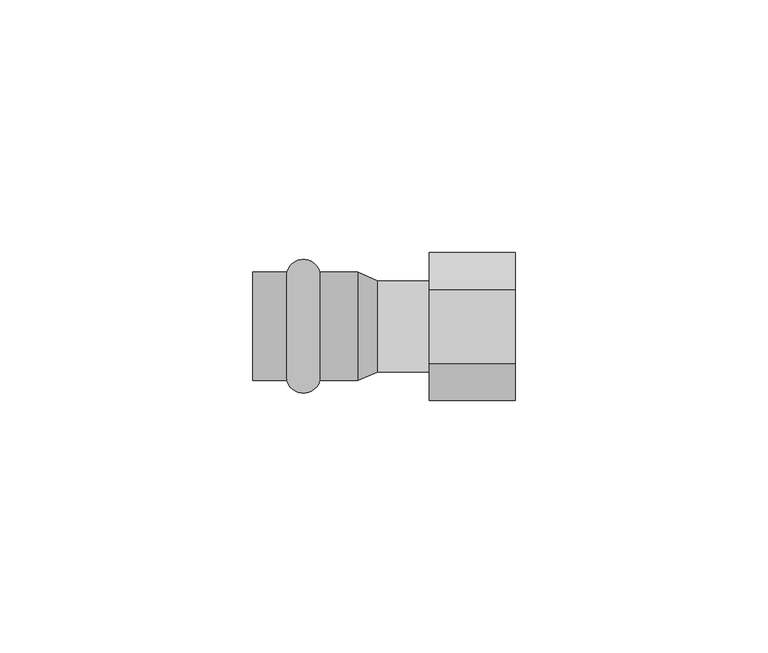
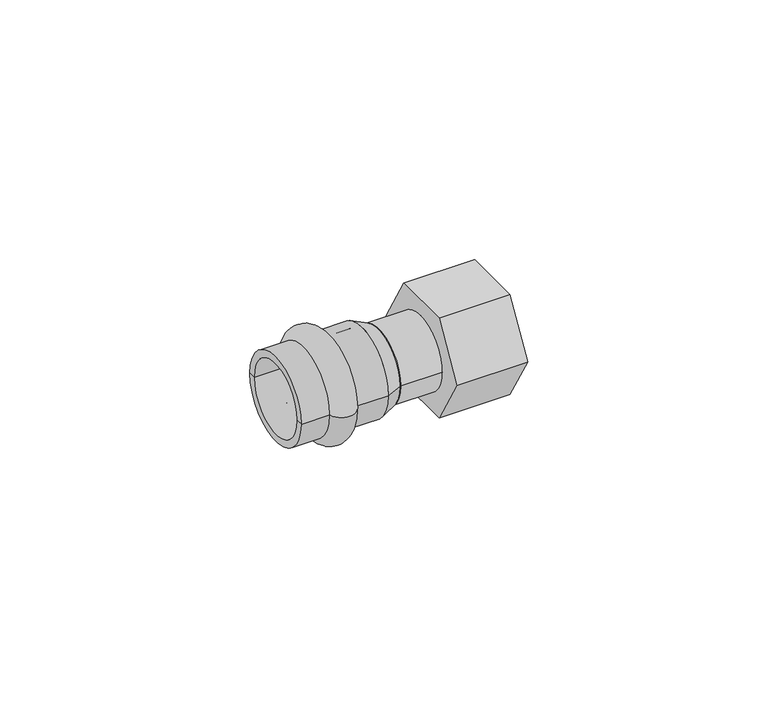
"""IFC4 building model written with IfcOpenShell, lengths in millimetres: pipe fitting geometry, VALTEC_VTi.902.I_Соединитель прямой с переходом на внутреннюю резьбу_Нержавеющая сталь : VTi.902.I."""

import ifcopenshell
import ifcopenshell.guid

model = None  # the IFC model being written
_history = None  # IfcOwnerHistory: only IFC2X3 demands one
_inside = {}  # id of a spatial element -> (the spatial element, [elements in it])
_under = {}  # id of a project, library or spatial element -> (it, [spatial elements below it])
_declared = {}  # id of a project -> (the project, [libraries it declares])
_typed = {}  # id of a type object -> (the type object, [elements of that type])
_made_of = {}  # id of a material, layer set ... -> (it, [elements and type objects made of it])


def new_model(schema):
    """Start an empty IFC model of exactly this schema.

    Asked for "IFC4X3", IfcOpenShell would pick the latest addendum, in which some entities
    have other attributes; the version numbers below select the first issue.
    IFC2X3 requires an IfcOwnerHistory on every rooted entity: one is made here for all.
    """
    global model, _history
    if schema == "IFC4X3":
        model = ifcopenshell.file(schema_version=(4, 3, 0, 0))
    else:
        model = ifcopenshell.file(schema=schema)
    _inside.clear()
    _under.clear()
    _declared.clear()
    _typed.clear()
    _made_of.clear()
    _history = None
    if model.schema == "IFC2X3":
        org = make("IfcOrganization", Name="unknown")
        user = make(
            "IfcPersonAndOrganization",
            ThePerson=make("IfcPerson", FamilyName="unknown"),
            TheOrganization=org,
        )
        app = make(
            "IfcApplication",
            ApplicationDeveloper=org,
            Version="unknown",
            ApplicationFullName="unknown",
            ApplicationIdentifier="unknown",
        )
        _history = make(
            "IfcOwnerHistory",
            OwningUser=user,
            OwningApplication=app,
            ChangeAction="ADDED",
            CreationDate=0,
        )
    return model


def make(cls, **values):
    """One entity of the class cls with the attributes given. An attribute that is None is left unset."""
    return model.create_entity(
        cls, **{name: value for name, value in values.items() if value is not None}
    )


def rooted(cls, **values):
    """An entity with a GlobalId (a new one), such as an element, a storey or a relation."""
    return make(cls, GlobalId=ifcopenshell.guid.new(), OwnerHistory=_history, **values)


def si_unit(unit_type, name, prefix=None):
    """IfcSIUnit, for example si_unit("LENGTHUNIT", "METRE", prefix="MILLI")."""
    return make("IfcSIUnit", UnitType=unit_type, Prefix=prefix, Name=name)


def assignment(units):
    """IfcUnitAssignment: the units of a project."""
    return None if units is None else make("IfcUnitAssignment", Units=units)


def point(xyz):
    """IfcCartesianPoint."""
    return None if xyz is None else make("IfcCartesianPoint", Coordinates=xyz)


def direction(xyz):
    """IfcDirection."""
    return None if xyz is None else make("IfcDirection", DirectionRatios=xyz)


def frame(location, z_axis=None, x_axis=None):
    """IfcAxis2Placement3D, a coordinate frame: its origin and axes. An axis left out is left unset."""
    return make(
        "IfcAxis2Placement3D",
        Location=point(location),
        Axis=direction(z_axis),
        RefDirection=direction(x_axis),
    )


def frame_2d(location, x_axis=None):
    """IfcAxis2Placement2D, a coordinate frame in the plane: its origin and x axis."""
    return make(
        "IfcAxis2Placement2D", Location=point(location), RefDirection=direction(x_axis)
    )


def origin():
    """The frame at (0, 0, 0) with its axes left unset."""
    return frame((0.0, 0.0, 0.0))


def origin_2d():
    """The frame at (0, 0) in the plane with its x axis left unset."""
    return frame_2d((0.0, 0.0))


def place(relative_to, where):
    """IfcLocalPlacement: puts the frame where relative to a parent placement (None: the world)."""
    return make(
        "IfcLocalPlacement", PlacementRelTo=relative_to, RelativePlacement=where
    )


def context(
    kind, dimensions, precision=None, world=None, true_north=None, identifier=None
):
    """IfcGeometricRepresentationContext, for example the 3D "Model" context."""
    return make(
        "IfcGeometricRepresentationContext",
        ContextIdentifier=identifier,
        ContextType=kind,
        CoordinateSpaceDimension=dimensions,
        Precision=precision,
        WorldCoordinateSystem=world,
        TrueNorth=true_north,
    )


def project(units=None, contexts=None):
    """IfcProject with its units and contexts."""
    return rooted(
        "IfcProject",
        Name="project",
        RepresentationContexts=contexts,
        UnitsInContext=assignment(units),
    )


def spatial(cls, under=None, at=None, **own):
    """A site, building, storey or space (cls), placed at a placement, below another one or the project."""
    s = rooted(cls, ObjectPlacement=at, **own)
    if under is not None:
        _under.setdefault(under.id(), (under, []))[1].append(s)
    return s


def polyline(points):
    """IfcPolyline through the points."""
    return make("IfcPolyline", Points=[point(p) for p in points])


def circle_curve(where, radius):
    """IfcCircle in the frame where."""
    return make("IfcCircle", Position=where, Radius=radius)


def ellipse_curve(where, semi_axis1, semi_axis2):
    """IfcEllipse in the frame where."""
    return make(
        "IfcEllipse", Position=where, SemiAxis1=semi_axis1, SemiAxis2=semi_axis2
    )


def trimmed(basis, trim1, trim2, sense, master):
    """IfcTrimmedCurve: the piece of a basis curve between two trims."""
    return make(
        "IfcTrimmedCurve",
        BasisCurve=basis,
        Trim1=trim1,
        Trim2=trim2,
        SenseAgreement=sense,
        MasterRepresentation=master,
    )


def segment(curve, same_sense, transition):
    """IfcCompositeCurveSegment."""
    return make(
        "IfcCompositeCurveSegment",
        Transition=transition,
        SameSense=same_sense,
        ParentCurve=curve,
    )


def composite_curve(segments, self_intersect=None):
    """IfcCompositeCurve: segments joined end to end."""
    return make("IfcCompositeCurve", Segments=segments, SelfIntersect=self_intersect)


def outline(outer, holes=None, kind="AREA"):
    """IfcArbitraryClosedProfileDef: a profile drawn as a closed curve; with holes, ...WithVoids."""
    if holes is None:
        return make("IfcArbitraryClosedProfileDef", ProfileType=kind, OuterCurve=outer)
    return make(
        "IfcArbitraryProfileDefWithVoids",
        ProfileType=kind,
        OuterCurve=outer,
        InnerCurves=holes,
    )


def extrude(swept, where, along, depth):
    """IfcExtrudedAreaSolid: the profile swept, set in the frame where, extruded along a direction by depth."""
    return make(
        "IfcExtrudedAreaSolid",
        SweptArea=swept,
        Position=where,
        ExtrudedDirection=direction(along),
        Depth=depth,
    )


def shape(context_of_items, identifier, shape_type, items):
    """IfcShapeRepresentation: the items that make up one representation, for example the "Body"."""
    return make(
        "IfcShapeRepresentation",
        ContextOfItems=context_of_items,
        RepresentationIdentifier=identifier,
        RepresentationType=shape_type,
        Items=items,
    )


def source(mapping_origin, context_of_items, identifier, shape_type, items):
    """IfcRepresentationMap: a shape defined once, which mapped items show again and again."""
    return make(
        "IfcRepresentationMap",
        MappingOrigin=mapping_origin,
        MappedRepresentation=shape(context_of_items, identifier, shape_type, items),
    )


def transform(
    local_origin,
    x_axis=None,
    y_axis=None,
    z_axis=None,
    scale=None,
    scale2=None,
    scale3=None,
    uniform=True,
):
    """IfcCartesianTransformationOperator3D, or its non-uniform kind. x_axis, y_axis, z_axis: its Axis1, 2, 3."""
    if uniform:
        return make(
            "IfcCartesianTransformationOperator3D",
            Axis1=direction(x_axis),
            Axis2=direction(y_axis),
            LocalOrigin=point(local_origin),
            Scale=scale,
            Axis3=direction(z_axis),
        )
    return make(
        "IfcCartesianTransformationOperator3DnonUniform",
        Axis1=direction(x_axis),
        Axis2=direction(y_axis),
        LocalOrigin=point(local_origin),
        Scale=scale,
        Axis3=direction(z_axis),
        Scale2=scale2,
        Scale3=scale3,
    )


def mapped(mapping_source, mapping_target):
    """IfcMappedItem: shows the shape of a source again, moved by a transform."""
    return make(
        "IfcMappedItem", MappingSource=mapping_source, MappingTarget=mapping_target
    )


def made_of(thing, what):
    """Note that an element or type object is made of a material, layer set ...; save() writes the relation."""
    if what is not None:
        _made_of.setdefault(what.id(), (what, []))[1].append(thing)
    return thing


def element(
    cls,
    number,
    at=None,
    inside=None,
    cuts=None,
    type_object=None,
    material=None,
    context=None,
    identifier="Body",
    shape_type=None,
    held_by="IfcProductDefinitionShape",
    body=None,
    shapes=None,
    **own,
):
    """One element of the class cls, such as IfcWall. Its Tag is "e" and its number.

    at: its placement. inside: the storey or other place that contains it. cuts: it is an
    opening in that element (IfcRelVoidsElement). A single representation is given by context,
    identifier, shape_type and body (its items); several are given by shapes. held_by: the class
    of the entity that holds the representations. save() writes the other relations.
    """
    e = rooted(cls, Tag="e%d" % number, ObjectPlacement=at, **own)
    if body is not None:
        shapes = [shape(context, identifier, shape_type, body)]
    if shapes is not None:
        e.Representation = make(held_by, Representations=shapes)
    if inside is not None:
        _inside.setdefault(inside.id(), (inside, []))[1].append(e)
    if cuts is not None:
        rooted(
            "IfcRelVoidsElement", RelatingBuildingElement=cuts, RelatedOpeningElement=e
        )
    if type_object is not None:
        _typed.setdefault(type_object.id(), (type_object, []))[1].append(e)
    return made_of(e, material)


def aggregate(whole, parts):
    """IfcRelAggregates: a whole, such as a stair, and the parts it consists of."""
    return rooted("IfcRelAggregates", RelatingObject=whole, RelatedObjects=parts)


def save(model, path):
    """Write the relations noted so far, then the file.

    IfcRelAggregates (storeys below a building ...), IfcRelContainedInSpatialStructure (elements
    in a storey), IfcRelDefinesByType, IfcRelAssociatesMaterial and IfcRelDeclares: one each for
    every whole, place, type object, material and project.
    """
    for whole, parts in _under.values():
        aggregate(whole, parts)
    for where, things in _inside.values():
        rooted(
            "IfcRelContainedInSpatialStructure",
            RelatedElements=things,
            RelatingStructure=where,
        )
    for kind, things in _typed.values():
        rooted("IfcRelDefinesByType", RelatedObjects=things, RelatingType=kind)
    for what, things in _made_of.values():
        rooted("IfcRelAssociatesMaterial", RelatedObjects=things, RelatingMaterial=what)
    for by, libraries in _declared.values():
        rooted("IfcRelDeclares", RelatingContext=by, RelatedDefinitions=libraries)
    model.write(path)


def plane_surface(at):
    """IfcPlane: the flat surface through the origin of the frame at, square to its z axis."""
    return make("IfcPlane", Position=at)


def cylinder_surface(at, radius):
    """IfcCylindricalSurface: all points at the distance radius from the z axis of the frame at."""
    return make("IfcCylindricalSurface", Position=at, Radius=radius)


def revolved_surface(curve, axis_point, axis_direction):
    """IfcSurfaceOfRevolution: the curve turned about the line through axis_point along axis_direction."""
    return make(
        "IfcSurfaceOfRevolution",
        SweptCurve=make("IfcArbitraryOpenProfileDef", ProfileType="CURVE", Curve=curve),
        AxisPosition=make("IfcAxis1Placement", Location=point(axis_point), Axis=direction(axis_direction)),
    )


def advanced_brep(points, edges, surfaces, faces):
    """IfcAdvancedBrep: a solid bounded by faces that lie on surfaces and meet in shared edges.

    An edge is (start, end): straight between two places in points (the first is 0);
    or (start, end, curve); or (start, end, curve, False) where it runs against its curve.
    A face is (place in surfaces, loops), or (place, loops, False) where it looks against
    its surface's normal. A loop lists edges by number (the first is 1), with a minus sign
    where the edge is run from its end to its start. The first loop is the outer one.
    """
    corners = [point(p) for p in points]
    vertices = [make("IfcVertexPoint", VertexGeometry=c) for c in corners]
    made = []
    for start, end, *more in edges:
        made.append(
            make(
                "IfcEdgeCurve",
                EdgeStart=vertices[start],
                EdgeEnd=vertices[end],
                EdgeGeometry=more[0] if more else make("IfcPolyline", Points=[corners[start], corners[end]]),
                SameSense=more[1] if len(more) > 1 else True,
            )
        )
    hull = []
    for where, loops, *sense in faces:
        bounds = []
        for j, loop in enumerate(loops):
            ring = [make("IfcOrientedEdge", EdgeElement=made[abs(k) - 1], Orientation=k > 0) for k in loop]
            bounds.append(
                make(
                    "IfcFaceOuterBound" if j == 0 else "IfcFaceBound",
                    Bound=make("IfcEdgeLoop", EdgeList=ring),
                    Orientation=True,
                )
            )
        hull.append(make("IfcAdvancedFace", Bounds=bounds, FaceSurface=surfaces[where], SameSense=sense[0] if sense else True))
    return make("IfcAdvancedBrep", Outer=make("IfcClosedShell", CfsFaces=hull))


def pipe_fitting_c54bd67b(model_context):
    return source(origin(), model_context, "Body", "SolidModel", [
        advanced_brep(
        [(-36.7287193, -10.75, 0.0), (-36.7287193, 10.75, 0.0), (-30.1712807, 10.75, 0.0), (-30.1712807, -10.75, 0.0), (-43.5, -10.75, 0.0), (-43.5, 10.75, 0.0), (-43.5, -9.0, 0.0), (-43.5, 9.0, 0.0), (-22.7, -9.0, 0.0), (-22.7, 9.0, 0.0), (-22.7, -10.75, 0.0), (-22.7, 10.75, 0.0)],
        [
            (0, 1, circle_curve(frame((-36.7287193, 0.0, 0.0), z_axis=(1.0, 0.0, 0.0), x_axis=(0.0, 1.0, 0.0)), 10.75)),
            (1, 2, circle_curve(frame((-33.45, 9.85, 0.0), z_axis=(0.0, 0.0, -1.0), x_axis=(1.0, 0.0, 0.0)), 3.4)),
            (2, 3, circle_curve(frame((-30.1712807, 0.0, 0.0), z_axis=(-1.0, 0.0, 0.0), x_axis=(0.0, 1.0, 0.0)), 10.75)),
            (3, 0, circle_curve(frame((-33.45, -9.85, 0.0), z_axis=(0.0, 0.0, -1.0), x_axis=(1.0, 0.0, 0.0)), 3.4)),
            (1, 0, circle_curve(frame((-36.7287193, 0.0, 0.0), z_axis=(1.0, 0.0, 0.0), x_axis=(0.0, 1.0, 0.0)), 10.75)),
            (3, 2, circle_curve(frame((-30.1712807, 0.0, 0.0), z_axis=(-1.0, 0.0, 0.0), x_axis=(0.0, 1.0, 0.0)), 10.75)),
            (4, 5, circle_curve(frame((-43.5, 0.0, 0.0), z_axis=(1.0, 0.0, 0.0), x_axis=(0.0, 1.0, 0.0)), 10.75)),
            (5, 1),
            (0, 4),
            (5, 4, circle_curve(frame((-43.5, 0.0, 0.0), z_axis=(1.0, 0.0, 0.0), x_axis=(0.0, 1.0, 0.0)), 10.75)),
            (6, 7, circle_curve(frame((-43.5, 0.0, 0.0), z_axis=(1.0, 0.0, 0.0), x_axis=(0.0, 1.0, 0.0)), 9.0)),
            (7, 5),
            (4, 6),
            (7, 6, circle_curve(frame((-43.5, 0.0, 0.0), z_axis=(1.0, 0.0, 0.0), x_axis=(0.0, 1.0, 0.0)), 9.0)),
            (8, 9, circle_curve(frame((-22.7, 0.0, 0.0), z_axis=(1.0, 0.0, 0.0), x_axis=(0.0, 1.0, 0.0)), 9.0)),
            (9, 7),
            (6, 8),
            (9, 8, circle_curve(frame((-22.7, 0.0, 0.0), z_axis=(1.0, 0.0, 0.0), x_axis=(0.0, 1.0, 0.0)), 9.0)),
            (10, 11, circle_curve(frame((-22.7, 0.0, 0.0), z_axis=(1.0, 0.0, 0.0), x_axis=(0.0, 1.0, 0.0)), 10.75)),
            (11, 9),
            (8, 10),
            (11, 10, circle_curve(frame((-22.7, 0.0, 0.0), z_axis=(1.0, 0.0, 0.0), x_axis=(0.0, 1.0, 0.0)), 10.75)),
            (2, 11),
            (10, 3),
        ],
        [
            revolved_surface(trimmed(ellipse_curve(frame((-33.45, 9.85, 0.0), z_axis=(0.0, 0.0, 1.0), x_axis=(1.0, 0.0, 0.0)), 3.4, 3.4), [point((-30.1712807, 10.75, 0.0))], [point((-36.7287193, 10.75, 0.0))], True, "CARTESIAN"), (-47.0364426, 0.0, 0.0), (-1.0, 0.0, 0.0)),
            cylinder_surface(frame((-47.0364426, 0.0, 0.0), z_axis=(-1.0, 0.0, 0.0), x_axis=(0.0, 1.0, 0.0)), 10.75),
            plane_surface(frame((-43.5, 0.0, 0.0), z_axis=(-1.0, 0.0, 0.0), x_axis=(0.0, 1.0, 0.0))),
            revolved_surface(polyline([(-43.5, 9.0, 0.0), (-22.7, 9.0, 0.0)]), (-47.0364426, 0.0, 0.0), (-1.0, 0.0, 0.0)),
            plane_surface(frame((-22.7, 0.0, 0.0), z_axis=(1.0, 0.0, 0.0), x_axis=(0.0, 1.0, 0.0))),
        ],
        [
            (0, [[1, 2, 3, 4]]),
            (0, [[5, -4, 6, -2]]),
            (1, [[7, 8, -1, 9]]),
            (1, [[10, -9, -5, -8]]),
            (2, [[11, 12, -7, 13]]),
            (2, [[14, -13, -10, -12]]),
            (3, [[15, 16, -11, 17]]),
            (3, [[18, -17, -14, -16]]),
            (4, [[19, 20, -15, 21]]),
            (4, [[22, -21, -18, -20]]),
            (1, [[-3, 23, -19, 24]]),
            (1, [[-6, -24, -22, -23]]),
        ],
    ),
        extrude(outline(polyline([(-14.6358293, 0.0), (-7.3179147, 12.675), (7.3179147, 12.675), (14.6358293, 0.0), (7.3179147, -12.675), (-7.3179147, -12.675), (-14.6358293, 0.0)])), frame((-8.5, 0.0, 0.0), z_axis=(1.0, 0.0, 0.0), x_axis=(0.0, 1.0, 0.0)), (0.0, 0.0, 1.0), 17.0),
        extrude(outline(composite_curve([segment(trimmed(circle_curve(origin_2d(), 9.0), [point((-9.0, 0.0))], [point((9.0, 0.0))], False, "CARTESIAN"), True, "CONTINUOUS"), segment(trimmed(circle_curve(origin_2d(), 9.0), [point((9.0, 0.0))], [point((-9.0, 0.0))], False, "CARTESIAN"), True, "CONTINUOUS")], self_intersect=False)), frame((-18.7, 0.0, 0.0), z_axis=(1.0, 0.0, 0.0), x_axis=(0.0, 1.0, 0.0)), (0.0, 0.0, 1.0), 10.2),
        advanced_brep(
        [(-18.7, -9.0, 0.0), (-18.7, 9.0, 0.0), (-22.7, -10.75, 0.0), (-22.7, 10.75, 0.0)],
        [
            (0, 1, circle_curve(frame((-18.7, 0.0, 0.0), z_axis=(1.0, 0.0, 0.0), x_axis=(0.0, -1.0, 0.0)), 9.0)),
            (1, 0, circle_curve(frame((-18.7, 0.0, 0.0), z_axis=(1.0, 0.0, 0.0), x_axis=(0.0, 1.0, 0.0)), 9.0)),
            (2, 3, circle_curve(frame((-22.7, 0.0, 0.0), z_axis=(-1.0, 0.0, 0.0), x_axis=(0.0, 1.0, 0.0)), 10.75)),
            (3, 2, circle_curve(frame((-22.7, 0.0, 0.0), z_axis=(-1.0, 0.0, 0.0), x_axis=(0.0, -1.0, 0.0)), 10.75)),
            (3, 1),
            (0, 2),
        ],
        [
            plane_surface(frame((-18.7, 0.0, 0.0), z_axis=(1.0, 0.0, 0.0), x_axis=(0.0, 0.0, -1.0))),
            plane_surface(frame((-22.7, 0.0, 0.0), z_axis=(-1.0, 0.0, 0.0), x_axis=(0.0, 0.0, -1.0))),
            revolved_surface(polyline([(-18.7, -9.000000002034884, 0.0), (-22.7, -10.75, 0.0)]), (1.8714286, 0.0, 0.0), (-1.0, 0.0, 0.0)),
            revolved_surface(polyline([(-18.7, 9.000000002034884, 0.0), (-22.7, 10.75, 0.0)]), (1.8714286, 0.0, 0.0), (-1.0, 0.0, 0.0)),
        ],
        [
            (0, [[1, 2]]),
            (1, [[3, 4]]),
            (2, [[-4, 5, -1, 6]]),
            (3, [[-3, -6, -2, -5]]),
        ],
    ),
    ])


if __name__ == "__main__":
    model = new_model("IFC4")
    model_context = context("Model", 3, world=origin())
    ifc_project = project(units=[si_unit("LENGTHUNIT", "METRE", prefix="MILLI")], contexts=[model_context])
    site = spatial("IfcSite", under=ifc_project)
    building = spatial("IfcBuilding", under=site)
    placement = place(None, origin())
    pipe_fitting_shape = pipe_fitting_c54bd67b(model_context)
    element("IfcPipeFitting", 1, ObjectType="VALTEC_VTi.902.I_Соединитель прямой с переходом на внутреннюю резьбу_Нержавеющая сталь : VTi.902.I", at=placement, inside=building, context=model_context, shape_type="MappedRepresentation", body=[
        mapped(pipe_fitting_shape, transform((0.0, 0.0, 0.0), x_axis=(1.0, 0.0, 0.0), y_axis=(0.0, 1.0, 0.0), z_axis=(0.0, 0.0, 1.0))),
    ])
    save(model, "model.ifc")
